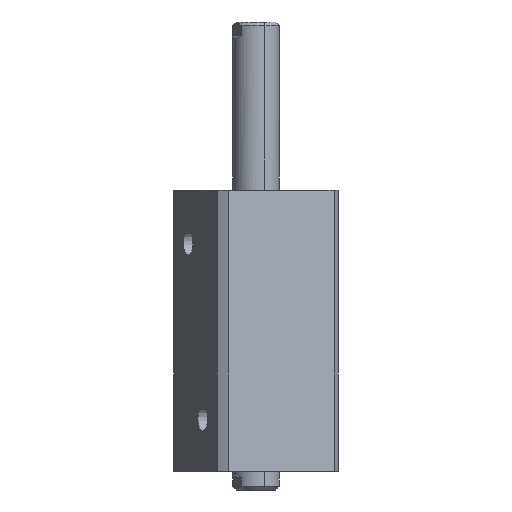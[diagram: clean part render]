
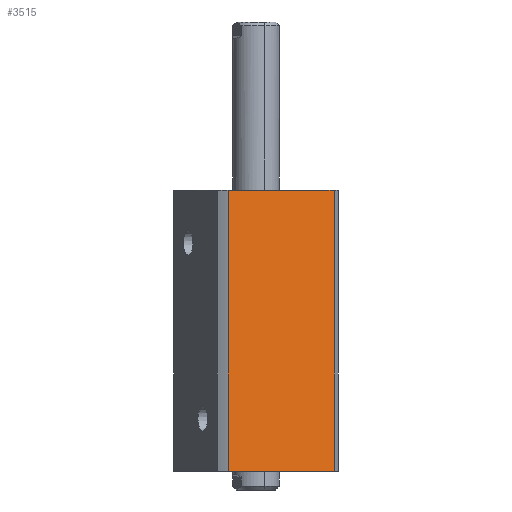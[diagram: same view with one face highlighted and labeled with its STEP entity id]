
A CAD part, left-side view. The second image highlights one B-rep face of the part: STEP entity #3515.
In plain terms, the highlighted planar face has unit normal (-0.924, -0.383, 0) as drawn and (1, 0, 0) by its records, which use the part's own axes.
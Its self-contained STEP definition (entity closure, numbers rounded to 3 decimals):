
#298 = EDGE_CURVE ( 'NONE', #4486, #2540, #4699, .T. ) ;
#304 = VECTOR ( 'NONE', #1792, 1000. ) ;
#323 = VECTOR ( 'NONE', #9918, 1000. ) ;
#326 = ORIENTED_EDGE ( 'NONE', *, *, #2713, .F. ) ;
#1205 = ORIENTED_EDGE ( 'NONE', *, *, #6517, .T. ) ;
#1614 = CARTESIAN_POINT ( 'NONE',  ( 35., 30.615, -150. ) ) ;
#1792 = DIRECTION ( 'NONE',  ( 0., 0., -1. ) ) ;
#2424 = CARTESIAN_POINT ( 'NONE',  ( 35., 30.615, 150. ) ) ;
#2494 = VERTEX_POINT ( 'NONE', #5871 ) ;
#2540 = VERTEX_POINT ( 'NONE', #6403 ) ;
#2585 = DIRECTION ( 'NONE',  ( 0., -1., 0. ) ) ;
#2650 = DIRECTION ( 'NONE',  ( -1., 0., 0. ) ) ;
#2713 = EDGE_CURVE ( 'NONE', #4685, #2494, #4418, .T. ) ;
#2833 = CARTESIAN_POINT ( 'NONE',  ( 35., 35., 150. ) ) ;
#3375 = VECTOR ( 'NONE', #7394, 1000. ) ;
#3515 = ADVANCED_FACE ( 'NONE', ( #6635 ), #3593, .F. ) ;
#3517 = AXIS2_PLACEMENT_3D ( 'NONE', #2833, #2650, #2585 ) ;
#3558 = ORIENTED_EDGE ( 'NONE', *, *, #9339, .F. ) ;
#3593 = PLANE ( 'NONE',  #3517 ) ;
#4418 = LINE ( 'NONE', #1614, #304 ) ;
#4486 = VERTEX_POINT ( 'NONE', #6340 ) ;
#4649 = CARTESIAN_POINT ( 'NONE',  ( 35., -30.615, -150. ) ) ;
#4685 = VERTEX_POINT ( 'NONE', #2424 ) ;
#4699 = LINE ( 'NONE', #4649, #323 ) ;
#5787 = LINE ( 'NONE', #5801, #3375 ) ;
#5801 = CARTESIAN_POINT ( 'NONE',  ( 35., 35., 150. ) ) ;
#5871 = CARTESIAN_POINT ( 'NONE',  ( 35., 30.615, 0. ) ) ;
#6340 = CARTESIAN_POINT ( 'NONE',  ( 35., -30.615, 0. ) ) ;
#6403 = CARTESIAN_POINT ( 'NONE',  ( 35., -30.615, 150. ) ) ;
#6517 = EDGE_CURVE ( 'NONE', #4486, #2494, #8741, .T. ) ;
#6635 = FACE_OUTER_BOUND ( 'NONE', #7976, .T. ) ;
#6676 = VECTOR ( 'NONE', #7500, 1000. ) ;
#7394 = DIRECTION ( 'NONE',  ( 0., 1., 0. ) ) ;
#7500 = DIRECTION ( 'NONE',  ( 0., 1., 0. ) ) ;
#7552 = ORIENTED_EDGE ( 'NONE', *, *, #298, .F. ) ;
#7976 = EDGE_LOOP ( 'NONE', ( #7552, #1205, #326, #3558 ) ) ;
#8741 = LINE ( 'NONE', #9785, #6676 ) ;
#9339 = EDGE_CURVE ( 'NONE', #2540, #4685, #5787, .T. ) ;
#9785 = CARTESIAN_POINT ( 'NONE',  ( 35., 35., 0. ) ) ;
#9918 = DIRECTION ( 'NONE',  ( 0., 0., 1. ) ) ;
